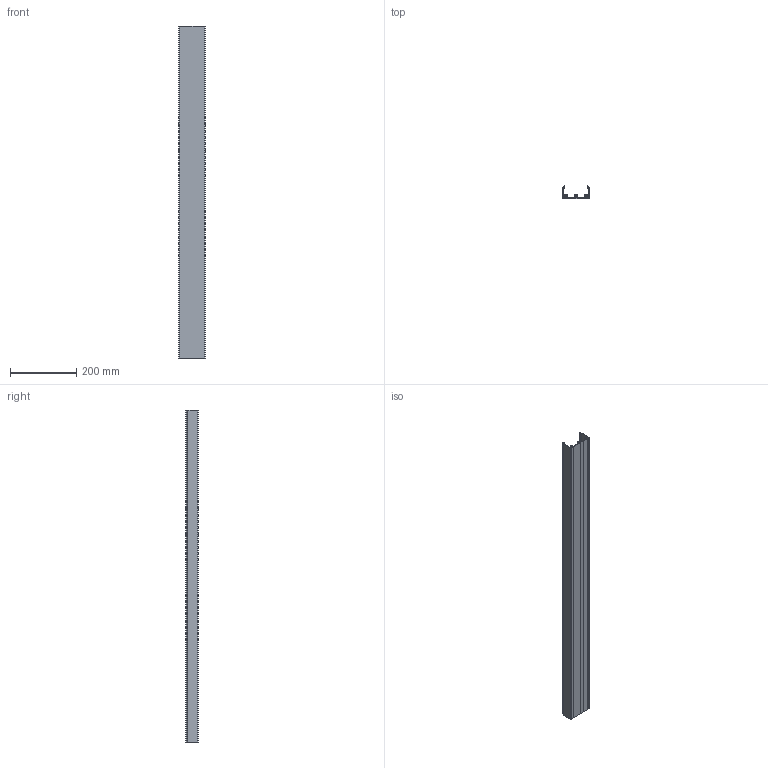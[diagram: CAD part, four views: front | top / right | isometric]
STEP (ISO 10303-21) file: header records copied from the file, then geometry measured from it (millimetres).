
FILE_DESCRIPTION (( 'STEP AP214' ), '1' );
FILE_NAME ('10254_KAB8040.STEP', '2016-05-03T13:08:22', ( '' ), ( '' ), 'SwSTEP 2.0', 'SolidWorks 2015', '' );
FILE_SCHEMA (( 'AUTOMOTIVE_DESIGN' ));
Length unit declared in the file: millimetre
Products named in the file (1): 10254_KAB8040
Bounding box: 80 x 38.3 x 1000 mm (x, y, z)
Volume: 381145.2 mm3; surface area: 431571.4 mm2
Topology: 1 solids, 1 shells, 186 faces, 552 edges, 368 vertices
Faces by surface type: plane 148, cylinder 38
Entity records: 6206 total; most frequent: CARTESIAN_POINT 1107, ORIENTED_EDGE 1104, DIRECTION 1002, EDGE_CURVE 552, LINE 476, VECTOR 476, VERTEX_POINT 368, AXIS2_PLACEMENT_3D 263
